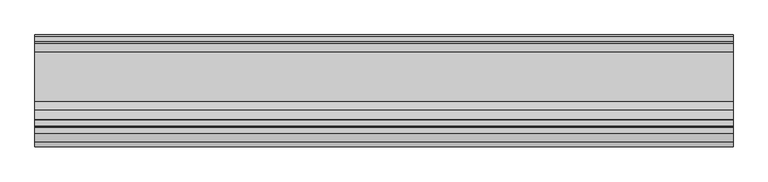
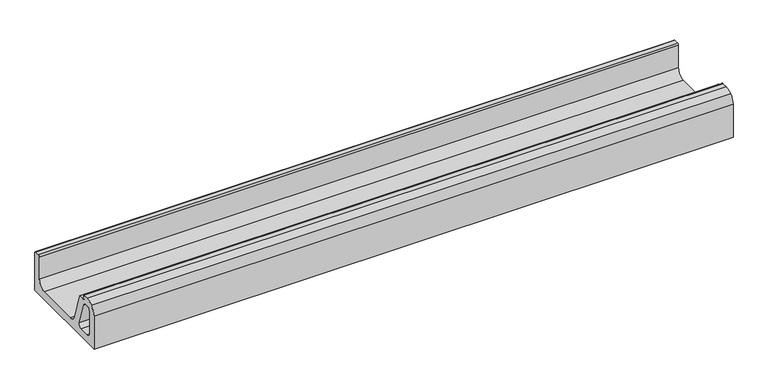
"""IFC4 building model written with IfcOpenShell, lengths in millimetres: proxy geometry, Muestra 1.96m RS931 : Muestra 1.96m RS931."""

from ifc_helpers import new_model, si_unit, point, frame, frame_2d, origin, place, context, project, spatial, polyline, circle_curve, trimmed, segment, composite_curve, outline, extrude, source, transform, mapped, element, save


def generic_models_db3a6eff(model_context):
    return source(origin(), model_context, "Body", "SweptSolid", [
        extrude(outline(composite_curve([segment(polyline([(28004.8320058, 4.0), (28004.8320058, 110.7811976)]), True, "CONTINUOUS"), segment(trimmed(circle_curve(frame_2d((28046.81747, 106.982459)), 42.1569641), [point((28004.8320058, 110.7811976))], [point((28018.1536006, 137.8951135))], False, "CARTESIAN"), True, "CONTINUOUS"), segment(trimmed(circle_curve(frame_2d((28044.240985, 100.3688476)), 45.7030881), [point((28018.1536006, 137.8951135))], [point((28041.6777467, 146.0))], False, "CARTESIAN"), True, "CONTINUOUS"), segment(polyline([(28041.6777467, 146.0), (28058.8021904, 146.0)]), True, "CONTINUOUS"), segment(trimmed(circle_curve(frame_2d((28058.8021904, 145.0)), 1.0), [point((28058.8021904, 146.0))], [point((28059.7932375, 145.1335127))], False, "CARTESIAN"), True, "CONTINUOUS"), segment(polyline([(28059.7932375, 145.1335127), (28061.5805549, 131.8664873)]), True, "CONTINUOUS"), segment(trimmed(circle_curve(frame_2d((28062.571602, 132.0)), 1.0), [point((28061.5805549, 131.8664873))], [point((28062.571602, 131.0))], True, "CARTESIAN"), True, "CONTINUOUS"), segment(polyline([(28062.571602, 131.0), (28079.7840037, 131.0)]), True, "CONTINUOUS"), segment(trimmed(circle_curve(frame_2d((28079.7840037, 130.0)), 1.0), [point((28079.7840037, 131.0))], [point((28080.7382002, 130.2991805))], False, "CARTESIAN"), True, "CONTINUOUS"), segment(polyline([(28080.7382002, 130.2991805), (28107.0063227, 46.5204875)]), True, "CONTINUOUS"), segment(trimmed(circle_curve(frame_2d((28130.411847, 53.3881371)), 24.3922771), [point((28107.0063227, 46.5204875))], [point((28130.861236, 29.0))], True, "CARTESIAN"), True, "CONTINUOUS"), segment(polyline([(28130.861236, 29.0), (28269.8324443, 29.0)]), True, "CONTINUOUS"), segment(trimmed(circle_curve(frame_2d((28269.8324443, 54.0)), 25.0), [point((28269.8324443, 29.0))], [point((28294.8324443, 54.0))], True, "CARTESIAN"), True, "CONTINUOUS"), segment(polyline([(28294.8324443, 54.0), (28294.8324443, 126.221769)]), True, "CONTINUOUS"), segment(trimmed(circle_curve(frame_2d((28299.8275237, 126.0)), 5.0), [point((28294.8324443, 126.221769))], [point((28299.8275237, 131.0))], False, "CARTESIAN"), True, "CONTINUOUS"), segment(polyline([(28299.8275237, 131.0), (28313.8324443, 131.0)]), True, "CONTINUOUS"), segment(trimmed(circle_curve(frame_2d((28313.8324443, 126.0)), 5.0), [point((28313.8324443, 131.0))], [point((28318.8324443, 126.0))], False, "CARTESIAN"), True, "CONTINUOUS"), segment(polyline([(28318.8324443, 126.0), (28318.8324443, 4.0), (28004.8320058, 4.0)]), True, "CONTINUOUS")], self_intersect=False), holes=[composite_curve([segment(trimmed(circle_curve(frame_2d((28046.4043273, 100.3688476)), 20.7030881), [point((28056.6916306, 118.3351841))], [point((28048.1286842, 121.0))], True, "CARTESIAN"), True, "CONTINUOUS"), segment(polyline([(28048.1286842, 121.0), (28042.5166281, 121.0)]), True, "CONTINUOUS"), segment(trimmed(circle_curve(frame_2d((28044.240985, 100.3688476)), 20.7030881), [point((28042.5166281, 121.0))], [point((28033.9536817, 118.3351841))], True, "CARTESIAN"), True, "CONTINUOUS"), segment(trimmed(circle_curve(frame_2d((28046.81747, 106.982459)), 17.1569641), [point((28033.9536817, 118.3351841))], [point((28029.8320058, 109.4022569))], True, "CARTESIAN"), True, "CONTINUOUS"), segment(polyline([(28029.8320058, 109.4022569), (28029.8320058, 39.0)]), True, "CONTINUOUS"), segment(trimmed(circle_curve(frame_2d((28039.8320058, 39.0)), 10.0), [point((28029.8320058, 39.0))], [point((28039.8320058, 29.0))], True, "CARTESIAN"), True, "CONTINUOUS"), segment(polyline([(28039.8320058, 29.0), (28072.6842353, 29.0)]), True, "CONTINUOUS"), segment(trimmed(circle_curve(frame_2d((28072.6842353, 39.0)), 10.0), [point((28072.6842353, 29.0))], [point((28082.2262007, 41.991805))], True, "CARTESIAN"), True, "CONTINUOUS"), segment(polyline([(28082.2262007, 41.991805), (28060.142942, 112.42343)]), True, "CONTINUOUS"), segment(trimmed(circle_curve(frame_2d((28042.9324285, 106.3391701)), 18.2543144), [point((28060.142942, 112.42343))], [point((28056.6916306, 118.3351841))], True, "CARTESIAN"), True, "CONTINUOUS")], self_intersect=False)]), frame((49006.9989142, 0.0, 0.0), z_axis=(1.0, 0.0, 0.0), x_axis=(0.0, 1.0, 0.0)), (0.0, 0.0, 1.0), 1960.0),
    ])


if __name__ == "__main__":
    model = new_model("IFC4")
    model_context = context("Model", 3, world=origin())
    ifc_project = project(units=[si_unit("LENGTHUNIT", "METRE", prefix="MILLI")], contexts=[model_context])
    site = spatial("IfcSite", under=ifc_project)
    building = spatial("IfcBuilding", under=site)
    placement = place(None, origin())
    generic_models_shape = generic_models_db3a6eff(model_context)
    element("IfcBuildingElementProxy", 1, Name="Muestra 1.96m RS931 : Muestra 1.96m RS931", ObjectType="Muestra 1.96m RS931 : Muestra 1.96m RS931", at=placement, inside=building, context=model_context, shape_type="MappedRepresentation", body=[
        mapped(generic_models_shape, transform((0.0, 0.0, 0.0), x_axis=(1.0, 0.0, 0.0), y_axis=(0.0, 1.0, 0.0), z_axis=(0.0, 0.0, 1.0))),
    ])
    save(model, "model.ifc")
